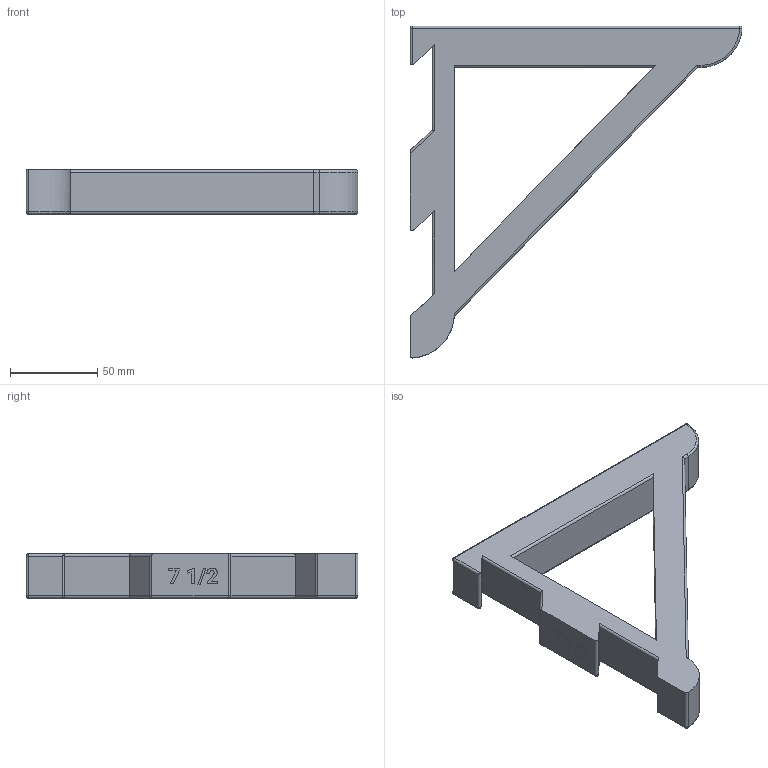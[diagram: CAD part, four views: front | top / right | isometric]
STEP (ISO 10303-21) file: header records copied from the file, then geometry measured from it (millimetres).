
FILE_DESCRIPTION(/* description */ ('STEP AP242','CAx-IF Rec.Pracs.---Representation and Presentation of Product Manufacturing Information (PMI)---4.0---2014-10-13','CAx-IF Rec.Pracs.---3D Tessellated Geometry---0.4---2014-09-14','2;1'),/* implementation_level */ '2;1');
FILE_NAME(/* name */ '677e146f248f35768652927b',/* time_stamp */ '2025-01-08T06:00:15Z',/* author */ (''),/* organization */ (''),/* preprocessor_version */ 'ST-DEVELOPER v20',/* originating_system */ 'ONSHAPE BY PTC INC, 1.191',/* authorisation */ ' ');
FILE_SCHEMA (('AP242_MANAGED_MODEL_BASED_3D_ENGINEERING_MIM_LF { 1 0 10303 442 1 1 4 }'));
Length unit declared in the file: metre
Products named in the file (1): Shelf Bracket-7.5
Bounding box: 190.46 x 190.46 x 25.4 mm (x, y, z)
Volume: 268490 mm3; surface area: 48573.4 mm2
Topology: 1 solids, 1 shells, 103 faces, 260 edges, 154 vertices
Faces by surface type: plane 46, cylinder 32, bspline 13, sphere 9, torus 3
Entity records: 3048 total; most frequent: CARTESIAN_POINT 669, ORIENTED_EDGE 502, DIRECTION 459, EDGE_CURVE 251, LINE 165, VECTOR 165, VERTEX_POINT 154, AXIS2_PLACEMENT_3D 147
